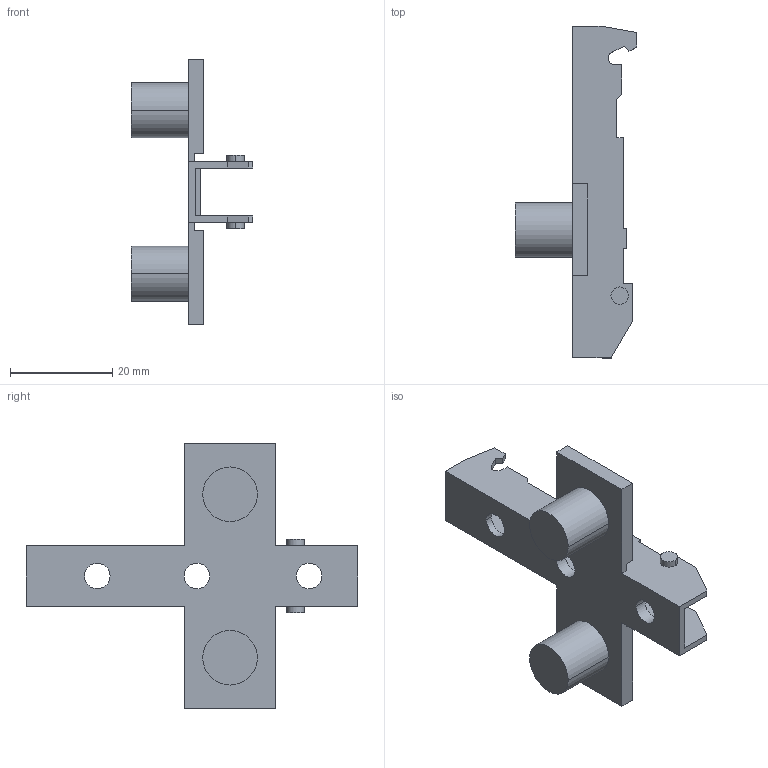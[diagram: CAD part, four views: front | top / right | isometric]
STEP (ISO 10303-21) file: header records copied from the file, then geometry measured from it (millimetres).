
FILE_DESCRIPTION (( 'STEP AP214' ), '1' );
FILE_NAME ('Eco Kreuzmontageplatte LR37_32_Dübel 10mm_H02.step', '2010-11-18T10:06:54', ( 'grass' ), ( '' ), 'SwSTEP 2.0', 'SolidWorks 2010', '' );
FILE_SCHEMA (( 'AUTOMOTIVE_DESIGN' ));
Length unit declared in the file: millimetre
Products named in the file (1): Eco Kreuzmontageplatte LR37_32_Dübel 10mm_H02
Bounding box: 23.7 x 65 x 52 mm (x, y, z)
Volume: 6431.3 mm3; surface area: 6651.2 mm2
Topology: 1 solids, 1 shells, 102 faces, 272 edges, 178 vertices
Faces by surface type: plane 74, cylinder 22, cone 6
Entity records: 3192 total; most frequent: CARTESIAN_POINT 553, ORIENTED_EDGE 544, DIRECTION 528, EDGE_CURVE 272, VECTOR 222, LINE 222, VERTEX_POINT 178, AXIS2_PLACEMENT_3D 153
